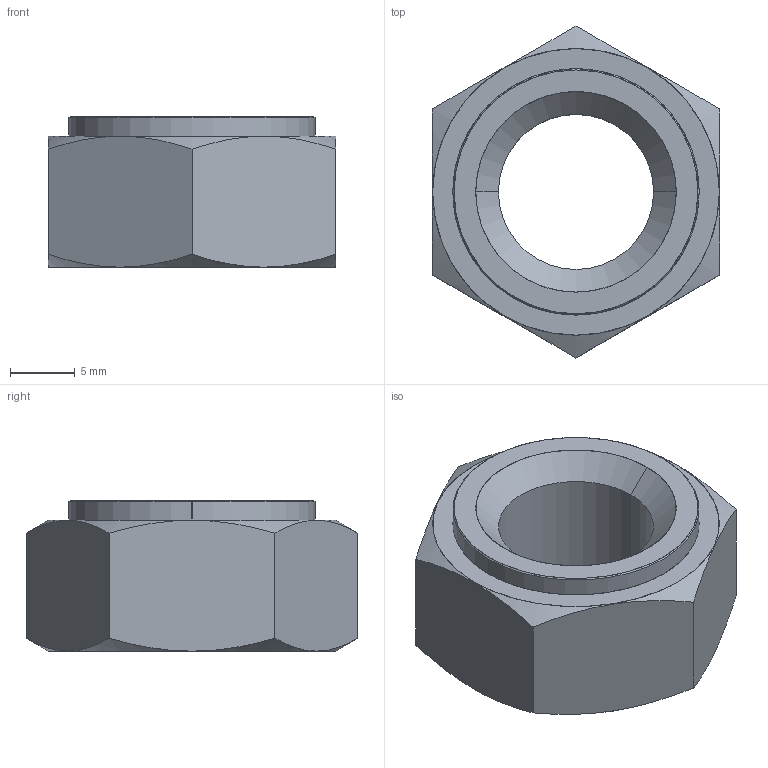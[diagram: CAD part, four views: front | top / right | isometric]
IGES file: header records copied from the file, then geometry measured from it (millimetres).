
Start section: SolidWorks IGES file using analytic representation for surfaces
Global section: file name: C:\Users\liam_\OneDrive\Desktop\Work\Mat Davis Pending 20181125\automotion\P SERIES\P0827.ZP_v2\P0827.ZP_v2_20181231_IGES\P0827.100-20G-ZP.igs; native system: SolidWorks 2017; preprocessor: SolidWorks 2017; author: liam_; date: 181231.111016; units: millimetre
Bounding box: 22.22 x 25.66 x 11.66 mm (x, y, z)
Surface area: 1825.3 mm2 (no closed solid volume)
Topology: 0 solids, 0 shells, 23 faces, 448 edges, 448 vertices
Faces by surface type: revolution 14, bspline 9
